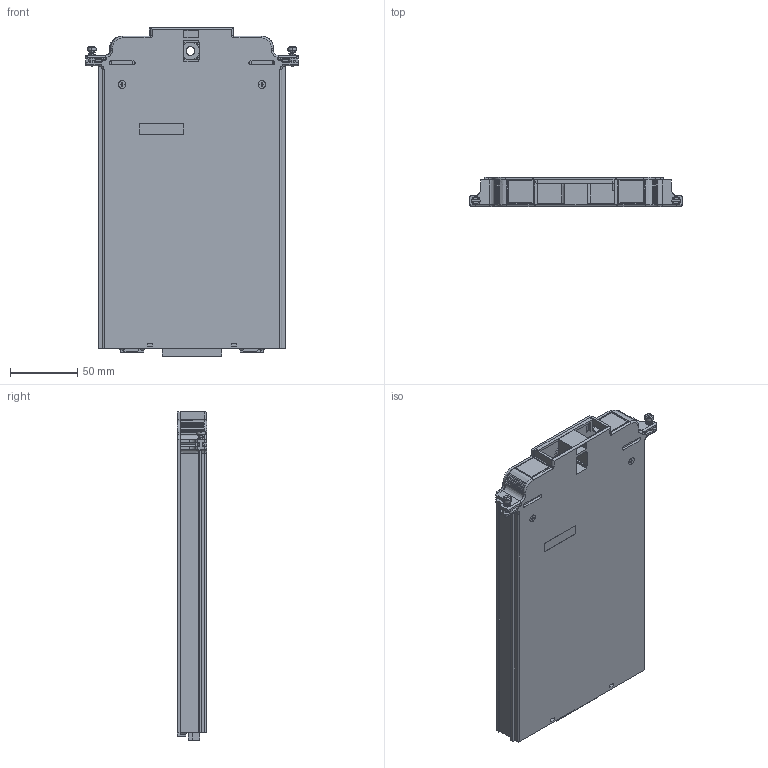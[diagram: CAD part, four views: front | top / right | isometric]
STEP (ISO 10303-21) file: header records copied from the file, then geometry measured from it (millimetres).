
FILE_DESCRIPTION((''),'2;1');
FILE_NAME('7702_ASM','2015-07-13T',('jpeters'),('Keithley Instruments'),'CREO PARAMETRIC BY PTC INC, 2014440','CREO PARAMETRIC BY PTC INC, 2014440','');
FILE_SCHEMA(('CONFIG_CONTROL_DESIGN'));
Length unit declared in the file: inch
Products named in the file (9): 7702-102; CS-1065; 7702-301; FA-326-1; SP-7-3; 7702-304; 4-40X5-16PFH; 7702-302; 7702_ASM
Assembly tree (12 placements, depth 2):
  7702_ASM
    7702-102
    CS-1065
    7702-301
    FA-326-1  x2
    SP-7-3  x2
    7702-304  x2
    4-40X5-16PFH  x2
    7702-302
Bounding box: 157.99 x 21.84 x 244.69 mm (x, y, z)
Volume: 210403 mm3; surface area: 229220.9 mm2
Topology: 12 solids, 12 shells, 1473 faces, 3503 edges, 2218 vertices
Faces by surface type: cylinder 653, plane 564, torus 142, cone 88, bspline 26
Entity records: 45082 total; most frequent: CARTESIAN_POINT 11532, DIRECTION 7386, ORIENTED_EDGE 6612, EDGE_CURVE 3306, AXIS2_PLACEMENT_3D 2851, VERTEX_POINT 2090, VECTOR 1684, LINE 1684
